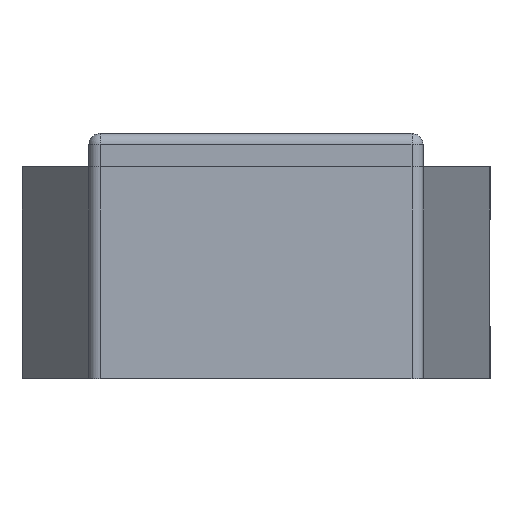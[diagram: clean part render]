
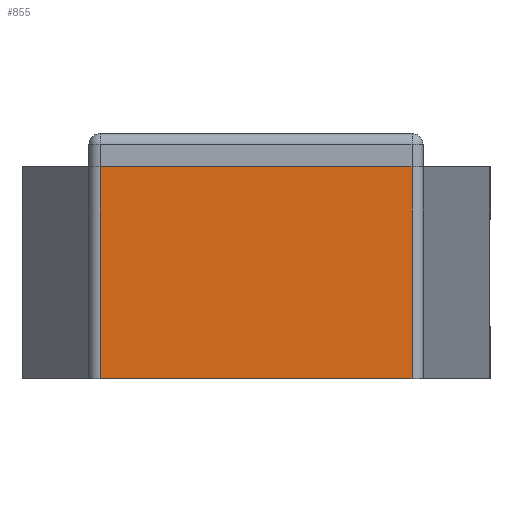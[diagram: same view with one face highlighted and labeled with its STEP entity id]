
A CAD part, front view. The second image highlights one B-rep face of the part: STEP entity #855.
In plain terms, the highlighted planar face has unit normal (0, -1, 0).
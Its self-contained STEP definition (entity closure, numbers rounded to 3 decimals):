
#129 = VECTOR ( 'NONE', #10393, 1000. ) ;
#855 = ADVANCED_FACE ( 'NONE', ( #10330 ), #17283, .F. ) ;
#1411 = EDGE_CURVE ( 'NONE', #14298, #11418, #7678, .T. ) ;
#2245 = CARTESIAN_POINT ( 'NONE',  ( -15., -60., -9.5 ) ) ;
#2256 = ORIENTED_EDGE ( 'NONE', *, *, #11415, .T. ) ;
#2765 = ORIENTED_EDGE ( 'NONE', *, *, #7930, .F. ) ;
#3116 = AXIS2_PLACEMENT_3D ( 'NONE', #8864, #12332, #13778 ) ;
#4435 = VERTEX_POINT ( 'NONE', #5509 ) ;
#5139 = LINE ( 'NONE', #7841, #9113 ) ;
#5509 = CARTESIAN_POINT ( 'NONE',  ( 14., -60., 9.5 ) ) ;
#5653 = VERTEX_POINT ( 'NONE', #14427 ) ;
#6305 = DIRECTION ( 'NONE',  ( 0., 0., 1. ) ) ;
#6386 = LINE ( 'NONE', #17343, #129 ) ;
#7591 = CARTESIAN_POINT ( 'NONE',  ( -15., -60., 9.5 ) ) ;
#7678 = LINE ( 'NONE', #2245, #8326 ) ;
#7834 = CARTESIAN_POINT ( 'NONE',  ( 14., -60., -9.5 ) ) ;
#7841 = CARTESIAN_POINT ( 'NONE',  ( 14., -60., 9.5 ) ) ;
#7930 = EDGE_CURVE ( 'NONE', #5653, #4435, #10777, .T. ) ;
#8147 = EDGE_CURVE ( 'NONE', #11418, #4435, #5139, .T. ) ;
#8326 = VECTOR ( 'NONE', #14517, 1000. ) ;
#8822 = ORIENTED_EDGE ( 'NONE', *, *, #1411, .T. ) ;
#8864 = CARTESIAN_POINT ( 'NONE',  ( -15., -60., 9.5 ) ) ;
#9113 = VECTOR ( 'NONE', #6305, 1000. ) ;
#9229 = DIRECTION ( 'NONE',  ( 1., 0., 0. ) ) ;
#9691 = VECTOR ( 'NONE', #9229, 1000. ) ;
#10330 = FACE_OUTER_BOUND ( 'NONE', #14210, .T. ) ;
#10393 = DIRECTION ( 'NONE',  ( 0., 0., -1. ) ) ;
#10777 = LINE ( 'NONE', #7591, #9691 ) ;
#11415 = EDGE_CURVE ( 'NONE', #5653, #14298, #6386, .T. ) ;
#11418 = VERTEX_POINT ( 'NONE', #7834 ) ;
#11708 = ORIENTED_EDGE ( 'NONE', *, *, #8147, .T. ) ;
#12332 = DIRECTION ( 'NONE',  ( 0., 1., 0. ) ) ;
#13778 = DIRECTION ( 'NONE',  ( -1., 0., 0. ) ) ;
#14210 = EDGE_LOOP ( 'NONE', ( #8822, #11708, #2765, #2256 ) ) ;
#14298 = VERTEX_POINT ( 'NONE', #16818 ) ;
#14427 = CARTESIAN_POINT ( 'NONE',  ( -14., -60., 9.5 ) ) ;
#14517 = DIRECTION ( 'NONE',  ( 1., 0., 0. ) ) ;
#16818 = CARTESIAN_POINT ( 'NONE',  ( -14., -60., -9.5 ) ) ;
#17283 = PLANE ( 'NONE',  #3116 ) ;
#17343 = CARTESIAN_POINT ( 'NONE',  ( -14., -60., 9.5 ) ) ;
